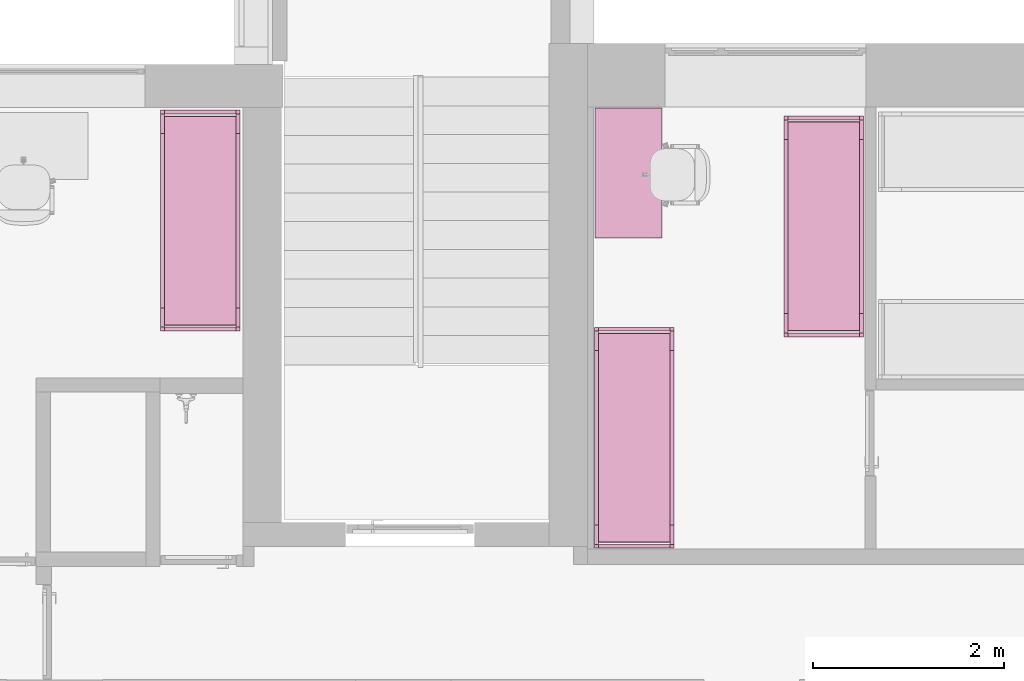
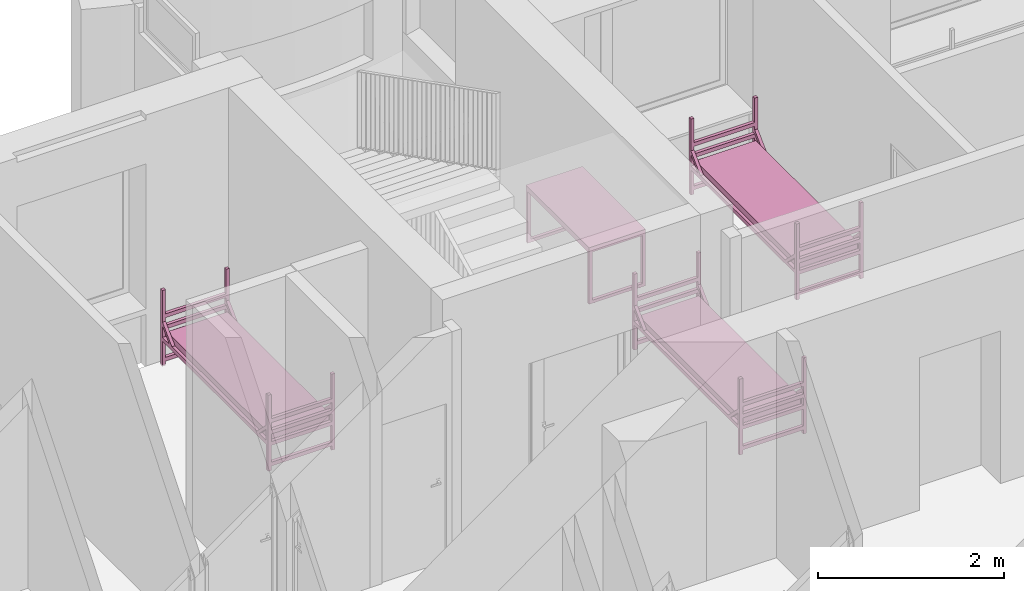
# One storey, part 29 of 48: 4 furnishings.
"""IFC2X3 building model written with IfcOpenShell, lengths in millimetres."""

from ifc_helpers import new_model, entity, si_unit, converted_unit, derived_unit, direction, frame, frame_2d, origin, place, context, subcontext, project, spatial, polyline, circle_curve, parameter, trimmed, segment, composite_curve, rectangle, outline, extrude, faceted_brep, source, transform, mapped, material, material_list, type_object, type_shapes, element, save


model = new_model("IFC2X3")

# Units and contexts
model_context = context("Model", 3, precision=0.01, world=origin(), true_north=direction((6.12303176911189e-17, 1.0)))
body_context = subcontext(model_context, "Body", "Model", "MODEL_VIEW")
ifc_project = project(units=[si_unit("LENGTHUNIT", "METRE", prefix="MILLI"), si_unit("AREAUNIT", "SQUARE_METRE"), si_unit("VOLUMEUNIT", "CUBIC_METRE"), converted_unit("PLANEANGLEUNIT", "DEGREE", entity("IfcRatioMeasure", 0.0174532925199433), si_unit("PLANEANGLEUNIT", "RADIAN"), dimensions=[0, 0, 0, 0, 0, 0, 0]), si_unit("MASSUNIT", "GRAM", prefix="KILO"), derived_unit("MASSDENSITYUNIT", [(si_unit("MASSUNIT", "GRAM", prefix="KILO"), 1), (si_unit("LENGTHUNIT", "METRE"), -3)]), si_unit("TIMEUNIT", "SECOND"), si_unit("FREQUENCYUNIT", "HERTZ"), si_unit("THERMODYNAMICTEMPERATUREUNIT", "DEGREE_CELSIUS"), derived_unit("THERMALTRANSMITTANCEUNIT", [(si_unit("MASSUNIT", "GRAM", prefix="KILO"), 1), (si_unit("THERMODYNAMICTEMPERATUREUNIT", "KELVIN"), -1), (si_unit("TIMEUNIT", "SECOND"), -3)]), derived_unit("VOLUMETRICFLOWRATEUNIT", [(si_unit("LENGTHUNIT", "METRE"), 3), (si_unit("TIMEUNIT", "SECOND"), -1)]), si_unit("ELECTRICCURRENTUNIT", "AMPERE"), si_unit("ELECTRICVOLTAGEUNIT", "VOLT"), si_unit("POWERUNIT", "WATT"), si_unit("FORCEUNIT", "NEWTON", prefix="KILO"), si_unit("ILLUMINANCEUNIT", "LUX"), si_unit("LUMINOUSFLUXUNIT", "LUMEN"), si_unit("LUMINOUSINTENSITYUNIT", "CANDELA"), derived_unit("USERDEFINED", [(si_unit("MASSUNIT", "GRAM", prefix="KILO"), -1), (si_unit("LENGTHUNIT", "METRE"), -2), (si_unit("TIMEUNIT", "SECOND"), 3), (si_unit("LUMINOUSFLUXUNIT", "LUMEN"), 1)]), derived_unit("LINEARVELOCITYUNIT", [(si_unit("LENGTHUNIT", "METRE"), 1), (si_unit("TIMEUNIT", "SECOND"), -1)]), si_unit("PRESSUREUNIT", "PASCAL"), derived_unit("USERDEFINED", [(si_unit("LENGTHUNIT", "METRE"), -2), (si_unit("MASSUNIT", "GRAM", prefix="KILO"), 1), (si_unit("TIMEUNIT", "SECOND"), -2)]), derived_unit("LINEARFORCEUNIT", [(si_unit("MASSUNIT", "GRAM", prefix="KILO"), 1), (si_unit("LENGTHUNIT", "METRE"), 1), (si_unit("TIMEUNIT", "SECOND"), -2), (si_unit("LENGTHUNIT", "METRE"), -1)]), derived_unit("PLANARFORCEUNIT", [(si_unit("MASSUNIT", "GRAM", prefix="KILO"), 1), (si_unit("LENGTHUNIT", "METRE"), 1), (si_unit("TIMEUNIT", "SECOND"), -2), (si_unit("LENGTHUNIT", "METRE"), -2)])], contexts=[model_context])

# Site, building, storey, space
site_placement = place(None, origin())
site = spatial("IfcSite", under=ifc_project, at=site_placement, Name="Default", CompositionType="ELEMENT")
building_placement = place(site_placement, origin())
building = spatial("IfcBuilding", under=site, at=building_placement, Name="SMA ARH", CompositionType="ELEMENT")
storey_placement = place(building_placement, frame((0.0, 0.0, 6600.0)))
storey = spatial("IfcBuildingStorey", under=building, at=storey_placement, Name="3 Korrus", CompositionType="ELEMENT", Elevation=6599.99999999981)
space_1_placement = place(storey_placement, origin())
space_1 = spatial("IfcSpace", under=storey, at=space_1_placement, Name="3-22", CompositionType="ELEMENT", InteriorOrExteriorSpace="INTERNAL")

# Furnishings
ifc_material_1 = material(Name="Madrats")
furniture_type_1 = type_object("IfcFurnitureType", Name="Kasarmu voodi ühekordne 2308x830:Kasarmu voodi ühekordne 2308x830", material=ifc_material_1)
shared_shape_1 = source(origin(), body_context, "Body", "SweptSolid", [
    extrude(rectangle(XDim=39.9999999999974, YDim=750.000000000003, at=frame_2d((-1.35003119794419e-13, -2.8421709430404e-14), x_axis=(1.0, 0.0))), frame((1.68638457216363, -1226.7969571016, 55.0), z_axis=(0.0, 0.0, 1.0), x_axis=(0.0, -1.0, 0.0)), (0.0, 0.0, 1.0), 49.9999999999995),
    extrude(rectangle(XDim=39.9999999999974, YDim=750.000000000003, at=frame_2d((-1.35003119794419e-13, -2.8421709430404e-14), x_axis=(1.0, 0.0))), frame((1.68638457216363, -1226.7969571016, 325.0), z_axis=(0.0, 0.0, 1.0), x_axis=(0.0, -1.0, 0.0)), (0.0, 0.0, 1.0), 49.9999999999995),
    extrude(rectangle(XDim=39.9999999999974, YDim=750.000000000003, at=frame_2d((-1.35003119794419e-13, -2.8421709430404e-14), x_axis=(1.0, 0.0))), frame((1.68638457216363, -1226.7969571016, 475.0), z_axis=(0.0, 0.0, 1.0), x_axis=(0.0, -1.0, 0.0)), (0.0, 0.0, 1.0), 49.9999999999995),
    extrude(rectangle(XDim=39.9999999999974, YDim=750.000000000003, at=frame_2d((-1.35003119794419e-13, -2.8421709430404e-14), x_axis=(1.0, 0.0))), frame((1.68638457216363, -1226.7969571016, 625.0), z_axis=(0.0, 0.0, 1.0), x_axis=(0.0, -1.0, 0.0)), (0.0, 0.0, 1.0), 50.0000000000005),
    extrude(rectangle(XDim=39.9999999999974, YDim=750.000000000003, at=frame_2d((1.35003119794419e-13, -2.8421709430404e-14), x_axis=(1.0, 0.0))), frame((1.68638457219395, 1041.2030428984, 55.0), z_axis=(0.0, 0.0, 1.0), x_axis=(0.0, -1.0, 0.0)), (0.0, 0.0, 1.0), 50.0000000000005),
    extrude(rectangle(XDim=39.9999999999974, YDim=750.000000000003, at=frame_2d((1.35003119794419e-13, -2.8421709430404e-14), x_axis=(1.0, 0.0))), frame((1.68638457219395, 1041.2030428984, 325.0), z_axis=(0.0, 0.0, 1.0), x_axis=(0.0, -1.0, 0.0)), (0.0, 0.0, 1.0), 50.0000000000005),
    extrude(rectangle(XDim=39.9999999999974, YDim=750.000000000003, at=frame_2d((1.35003119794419e-13, -2.8421709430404e-14), x_axis=(1.0, 0.0))), frame((1.68638457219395, 1041.2030428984, 475.0), z_axis=(0.0, 0.0, 1.0), x_axis=(0.0, -1.0, 0.0)), (0.0, 0.0, 1.0), 50.0000000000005),
    extrude(rectangle(XDim=39.9999999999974, YDim=750.000000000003, at=frame_2d((1.35003119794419e-13, -2.8421709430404e-14), x_axis=(1.0, 0.0))), frame((1.68638457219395, 1041.2030428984, 625.0), z_axis=(0.0, 0.0, 1.0), x_axis=(0.0, -1.0, 0.0)), (0.0, 0.0, 1.0), 49.9999999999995),
    extrude(outline(composite_curve([segment(trimmed(circle_curve(frame_2d((1085.0, -40.0), x_axis=(1.0, 0.0)), 10.0), [parameter(270.0)], [parameter(0.0)], True, "PARAMETER"), True, "CONTINUOUS"), segment(polyline([(1095.0, -40.0), (1095.0, 40.0)]), True, "CONTINUOUS"), segment(trimmed(circle_curve(frame_2d((1085.0, 40.0), x_axis=(1.0, 0.0)), 10.0), [parameter(0.0)], [parameter(90.0000000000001)], True, "PARAMETER"), True, "CONTINUOUS"), segment(polyline([(1085.0, 50.0), (-1085.0, 50.0)]), True, "CONTINUOUS"), segment(trimmed(circle_curve(frame_2d((-1085.0, 40.0), x_axis=(1.0, 0.0)), 10.0), [parameter(90.0000000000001)], [parameter(180.0)], True, "PARAMETER"), True, "CONTINUOUS"), segment(polyline([(-1095.0, 40.0), (-1095.0, -40.0)]), True, "CONTINUOUS"), segment(trimmed(circle_curve(frame_2d((-1085.0, -40.0), x_axis=(1.0, 0.0)), 10.0), [parameter(180.0)], [parameter(270.0)], True, "PARAMETER"), True, "CONTINUOUS"), segment(polyline([(-1085.0, -50.0), (1085.0, -50.0)]), True, "CONTINUOUS")], self_intersect=False)), frame((-373.313615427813, -92.7969571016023, 405.0), z_axis=(1.0, 0.0, 0.0), x_axis=(0.0, -1.0, 0.0)), (0.0, 0.0, 1.0), 750.000000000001),
    extrude(outline(polyline([(-1114.0, -100.0), (1114.0, -100.0), (1114.0, -50.0), (961.59199141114, -50.0), (1114.0, 100.0), (1114.0, 150.0), (910.789321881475, -50.0), (-910.789321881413, -50.0), (-1114.0, 150.0), (-1114.0, 100.0), (-961.591991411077, -50.0), (-1114.0, -50.0), (-1114.0, -100.0)])), frame((-413.313615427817, -92.7969571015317, 430.0), z_axis=(1.0, 0.0, 0.0), x_axis=(0.0, 1.0, 0.0)), (0.0, 0.0, 1.0), 39.9999999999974),
    extrude(outline(polyline([(-1114.0, -100.0), (1114.0, -100.0), (1114.0, -50.0), (961.591991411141, -50.0), (1114.0, 100.0), (1114.0, 150.0), (910.789321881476, -50.0), (-910.789321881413, -50.0), (-1114.0, 150.0), (-1114.0, 100.0), (-961.591991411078, -50.0), (-1114.0, -50.0), (-1114.0, -100.0)])), frame((376.686384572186, -92.796957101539, 430.0), z_axis=(1.0, 0.0, 0.0), x_axis=(0.0, 1.0, 0.0)), (0.0, 0.0, 1.0), 39.9999999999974),
    extrude(rectangle(XDim=39.9999999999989, YDim=39.9999999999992, at=frame_2d((-6.75015598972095e-14, 0.0), x_axis=(1.0, 0.0))), frame((396.686384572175, -1226.79695710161, 0.0), z_axis=(0.0, 0.0, 1.0), x_axis=(0.0, 1.0, 0.0)), (0.0, 0.0, 1.0), 995.0),
    extrude(rectangle(XDim=39.9999999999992, YDim=39.9999999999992, at=frame_2d((-1.35003119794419e-13, 0.0), x_axis=(1.0, 0.0))), frame((396.686384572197, 1041.20304289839, 0.0), z_axis=(0.0, 0.0, 1.0), x_axis=(0.0, 1.0, 0.0)), (0.0, 0.0, 1.0), 995.0),
    extrude(rectangle(XDim=40.0000000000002, YDim=39.9999999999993, at=frame_2d((-1.35003119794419e-13, 0.0), x_axis=(1.0, 0.0))), frame((-393.313615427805, 1041.2030428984, 0.0), z_axis=(0.0, 0.0, 1.0), x_axis=(0.0, 1.0, 0.0)), (0.0, 0.0, 1.0), 995.0),
    extrude(rectangle(XDim=39.9999999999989, YDim=39.9999999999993, at=frame_2d((-6.75015598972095e-14, 0.0), x_axis=(1.0, 0.0))), frame((-393.313615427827, -1226.7969571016, 0.0), z_axis=(0.0, 0.0, 1.0), x_axis=(0.0, 1.0, 0.0)), (0.0, 0.0, 1.0), 995.0),
])
type_shapes(furniture_type_1, [shared_shape_1])
for number, where, z_axis, x_axis, name in (
    (1, (14471.6863845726, 11160.0, 0.0), (0.0, 0.0, 1.0), (-1.0, 0.0, 0.0), "Kasarmu voodi ühekordne 2308x830:Kasarmu voodi ühekordne 2308x830"),
    (2, (12491.6863845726, 8950.20304289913, 0.0), (0.0, 0.0, 1.0), (-1.0, 0.0, 0.0), "Kasarmu voodi ühekordne 2308x830:Kasarmu voodi ühekordne 2308x830"),
):
    element("IfcFurnishingElement", number, at=place(space_1_placement, frame(where, z_axis=z_axis, x_axis=x_axis)), inside=space_1, type_object=furniture_type_1, material=ifc_material_1, Name=name, ObjectType="Kasarmu voodi ühekordne 2308x830:Kasarmu voodi ühekordne 2308x830", context=body_context, shape_type="MappedRepresentation", body=[
        mapped(shared_shape_1, transform((0.0, 0.0, 0.0), scale=1.0)),
    ])

# Space
space_2_placement = place(storey_placement, origin())
space_2 = spatial("IfcSpace", under=storey, at=space_2_placement, Name="3-20/2", CompositionType="ELEMENT", InteriorOrExteriorSpace="INTERNAL")

# Furnishings
furnishing_1_placement = place(space_2_placement, frame((7954.50000000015, 11220.0, 0.0), z_axis=(0.0, 0.0, 1.0), x_axis=(-1.0, 0.0, 0.0)))
element("IfcFurnishingElement", 3, at=furnishing_1_placement, inside=space_2, type_object=furniture_type_1, material=ifc_material_1, Name="Kasarmu voodi ühekordne 2308x830:Kasarmu voodi ühekordne 2308x830", ObjectType="Kasarmu voodi ühekordne 2308x830:Kasarmu voodi ühekordne 2308x830", context=body_context, shape_type="MappedRepresentation", body=[
    mapped(shared_shape_1, transform((0.0, 0.0, 0.0), scale=1.0)),
])
ifc_material_2 = material(Name="<Unnamed>")
ifc_material_list = material_list([ifc_material_2, ifc_material_2])
furniture_type_2 = type_object("IfcFurnitureType", Name="kirjutuslaud 1360x700mm:kirjutuslaud 1360x700mm", material=ifc_material_list)
shared_shape_2 = source(origin(), body_context, "Body", "Brep", [
    faceted_brep([(680.0, -350.0, 720.0), (680.0, 350.0, 720.0), (680.0, 350.0, 750.0), (680.0, -350.0, 750.0), (-680.0, -350.0, 720.0), (-680.0, -350.0, 750.0), (-680.0, 350.0, 750.0), (-680.0, 350.0, 720.0)], [[[0, 1, 2, 3]], [[4, 5, 6, 7]], [[1, 0, 4, 7]], [[2, 1, 7, 6]], [[3, 2, 6, 5]], [[0, 3, 5, 4]]]),
    faceted_brep([(-640.0, -310.0, 680.0), (-640.0, 310.0, 680.0), (-640.0, 310.0, 720.0), (-640.0, -310.0, 720.0), (-680.0, -350.0, 720.0), (-680.0, 350.0, 720.0), (-680.0, 350.0, 10.0), (-680.0, -350.0, 10.0), (-680.0, 310.0, 680.0), (-680.0, -310.0, 680.0), (-680.0, -310.0, 50.0), (-680.0, 310.0, 50.0), (-640.0, -350.0, 10.0), (-640.0, -350.0, 680.0), (640.0, -350.0, 680.0), (640.0, -350.0, 10.0), (680.0, -350.0, 10.0), (680.0, -350.0, 720.0), (-640.0, 350.0, 10.0), (680.0, 350.0, 720.0), (680.0, 350.0, 10.0), (640.0, 350.0, 10.0), (640.0, 350.0, 680.0), (-640.0, 350.0, 680.0), (640.0, 310.0, 720.0), (640.0, -310.0, 720.0), (-640.0, 310.0, 50.0), (-640.0, -310.0, 50.0), (640.0, -310.0, 680.0), (640.0, 310.0, 680.0), (680.0, 310.0, 680.0), (680.0, 310.0, 50.0), (680.0, -310.0, 50.0), (680.0, -310.0, 680.0), (640.0, -310.0, 50.0), (640.0, 310.0, 50.0)], [[[0, 1, 2, 3]], [[4, 5, 6, 7], [8, 9, 10, 11]], [[4, 7, 12, 13, 14, 15, 16, 17]], [[18, 12, 7, 6]], [[6, 5, 19, 20, 21, 22, 23, 18]], [[19, 5, 4, 17], [2, 24, 25, 3]], [[26, 1, 8, 11]], [[27, 26, 11, 10]], [[0, 27, 10, 9]], [[1, 0, 9, 8]], [[14, 13, 0, 28]], [[24, 2, 1, 29]], [[3, 25, 28, 0]], [[17, 16, 20, 19], [30, 31, 32, 33]], [[21, 15, 14, 28, 34, 35, 29, 22]], [[20, 16, 15, 21]], [[31, 30, 29, 35]], [[32, 31, 35, 34]], [[33, 32, 34, 28]], [[30, 33, 28, 29]], [[29, 28, 25, 24]], [[29, 1, 23, 22]], [[12, 18, 23, 1, 26, 27, 0, 13]]]),
    faceted_brep([(-663.729456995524, -270.466136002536, 0.0), (-659.847171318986, -269.955023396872, 0.0), (-655.964885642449, -270.466136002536, 0.0), (-652.347171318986, -271.964642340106, 0.0), (-649.240569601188, -274.348421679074, 0.0), (-646.85679026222, -277.455023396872, 0.0), (-645.35828392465, -281.072737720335, 0.0), (-644.847171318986, -284.955023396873, 0.0), (-645.35828392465, -288.83730907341, 0.0), (-646.85679026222, -292.455023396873, 0.0), (-649.240569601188, -295.561625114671, 0.0), (-652.347171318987, -297.945404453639, 0.0), (-655.964885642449, -299.443910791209, 0.0), (-659.847171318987, -299.955023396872, 0.0), (-663.729456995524, -299.443910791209, 0.0), (-667.347171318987, -297.945404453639, 0.0), (-670.453773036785, -295.561625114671, 0.0), (-672.837552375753, -292.455023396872, 0.0), (-674.336058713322, -288.83730907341, 0.0), (-674.847171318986, -284.955023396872, 0.0), (-674.336058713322, -281.072737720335, 0.0), (-672.837552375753, -277.455023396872, 0.0), (-670.453773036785, -274.348421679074, 0.0), (-667.347171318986, -271.964642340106, 0.0), (-655.964885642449, -299.443910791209, 10.0), (-652.347171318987, -297.945404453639, 10.0), (-649.240569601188, -295.561625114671, 10.0), (-646.85679026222, -292.455023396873, 10.0), (-645.35828392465, -288.83730907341, 10.0), (-644.847171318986, -284.955023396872, 10.0), (-645.35828392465, -281.072737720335, 10.0), (-646.85679026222, -277.455023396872, 10.0), (-649.240569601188, -274.348421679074, 10.0), (-652.347171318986, -271.964642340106, 10.0), (-655.964885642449, -270.466136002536, 10.0), (-659.847171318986, -269.955023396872, 10.0), (-663.729456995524, -270.466136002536, 10.0), (-667.347171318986, -271.964642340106, 10.0), (-670.453773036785, -274.348421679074, 10.0), (-672.837552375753, -277.455023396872, 10.0), (-674.336058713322, -281.072737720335, 10.0), (-674.847171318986, -284.955023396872, 10.0), (-674.336058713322, -288.83730907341, 10.0), (-672.837552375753, -292.455023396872, 10.0), (-670.453773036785, -295.561625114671, 10.0), (-667.347171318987, -297.945404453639, 10.0), (-663.729456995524, -299.443910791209, 10.0), (-659.847171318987, -299.955023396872, 10.0)], [[[0, 1, 2, 3, 4, 5, 6, 7, 8, 9, 10, 11, 12, 13, 14, 15, 16, 17, 18, 19, 20, 21, 22, 23]], [[24, 25, 26, 27, 28, 29, 30, 31, 32, 33, 34, 35, 36, 37, 38, 39, 40, 41, 42, 43, 44, 45, 46, 47]], [[18, 42, 41, 19]], [[17, 43, 42, 18]], [[45, 44, 16, 15]], [[17, 16, 44, 43]], [[46, 45, 15, 14]], [[47, 46, 14, 13]], [[12, 24, 47, 13]], [[11, 25, 24, 12]], [[27, 26, 10, 9]], [[11, 10, 26, 25]], [[28, 27, 9, 8]], [[29, 28, 8, 7]], [[6, 30, 29, 7]], [[5, 31, 30, 6]], [[33, 32, 4, 3]], [[5, 4, 32, 31]], [[34, 33, 3, 2]], [[35, 34, 2, 1]], [[0, 36, 35, 1]], [[23, 37, 36, 0]], [[39, 38, 22, 21]], [[23, 22, 38, 37]], [[40, 39, 21, 20]], [[41, 40, 20, 19]]]),
    faceted_brep([(-655.964885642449, 270.466136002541, 10.0), (-652.347171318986, 271.964642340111, 10.0), (-649.240569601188, 274.348421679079, 10.0), (-646.85679026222, 277.455023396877, 10.0), (-645.35828392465, 281.07273772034, 10.0), (-644.847171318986, 284.955023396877, 10.0), (-645.35828392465, 288.837309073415, 10.0), (-646.85679026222, 292.455023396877, 10.0), (-649.240569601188, 295.561625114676, 10.0), (-652.347171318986, 297.945404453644, 10.0), (-655.964885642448, 299.443910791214, 10.0), (-659.847171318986, 299.955023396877, 10.0), (-663.729456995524, 299.443910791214, 10.0), (-667.347171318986, 297.945404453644, 10.0), (-670.453773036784, 295.561625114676, 10.0), (-672.837552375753, 292.455023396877, 10.0), (-674.336058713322, 288.837309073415, 10.0), (-674.847171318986, 284.955023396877, 10.0), (-674.336058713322, 281.07273772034, 10.0), (-672.837552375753, 277.455023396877, 10.0), (-670.453773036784, 274.348421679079, 10.0), (-667.347171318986, 271.964642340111, 10.0), (-663.729456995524, 270.466136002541, 10.0), (-659.847171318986, 269.955023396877, 10.0), (-655.964885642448, 299.443910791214, 0.0), (-652.347171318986, 297.945404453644, 0.0), (-649.240569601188, 295.561625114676, 0.0), (-646.85679026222, 292.455023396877, 0.0), (-645.35828392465, 288.837309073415, 0.0), (-644.847171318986, 284.955023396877, 0.0), (-645.35828392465, 281.07273772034, 0.0), (-646.85679026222, 277.455023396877, 0.0), (-649.240569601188, 274.348421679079, 0.0), (-652.347171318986, 271.964642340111, 0.0), (-655.964885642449, 270.466136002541, 0.0), (-659.847171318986, 269.955023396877, 0.0), (-663.729456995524, 270.466136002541, 0.0), (-667.347171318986, 271.964642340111, 0.0), (-670.453773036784, 274.348421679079, 0.0), (-672.837552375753, 277.455023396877, 0.0), (-674.336058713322, 281.07273772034, 0.0), (-674.847171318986, 284.955023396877, 0.0), (-674.336058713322, 288.837309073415, 0.0), (-672.837552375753, 292.455023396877, 0.0), (-670.453773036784, 295.561625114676, 0.0), (-667.347171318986, 297.945404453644, 0.0), (-663.729456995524, 299.443910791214, 0.0), (-659.847171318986, 299.955023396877, 0.0)], [[[0, 1, 2, 3, 4, 5, 6, 7, 8, 9, 10, 11, 12, 13, 14, 15, 16, 17, 18, 19, 20, 21, 22, 23]], [[24, 25, 26, 27, 28, 29, 30, 31, 32, 33, 34, 35, 36, 37, 38, 39, 40, 41, 42, 43, 44, 45, 46, 47]], [[40, 18, 17, 41]], [[39, 19, 18, 40]], [[21, 20, 38, 37]], [[39, 38, 20, 19]], [[22, 21, 37, 36]], [[23, 22, 36, 35]], [[34, 0, 23, 35]], [[33, 1, 0, 34]], [[3, 2, 32, 31]], [[33, 32, 2, 1]], [[4, 3, 31, 30]], [[5, 4, 30, 29]], [[28, 6, 5, 29]], [[27, 7, 6, 28]], [[9, 8, 26, 25]], [[27, 26, 8, 7]], [[10, 9, 25, 24]], [[11, 10, 24, 47]], [[46, 12, 11, 47]], [[45, 13, 12, 46]], [[15, 14, 44, 43]], [[45, 44, 14, 13]], [[16, 15, 43, 42]], [[17, 16, 42, 41]]]),
    faceted_brep([(656.270543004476, -270.466136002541, 0.0), (660.152828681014, -269.955023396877, 0.0), (664.035114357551, -270.466136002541, 0.0), (667.652828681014, -271.96464234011, 0.0), (670.759430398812, -274.348421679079, 0.0), (673.14320973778, -277.455023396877, 0.0), (674.64171607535, -281.072737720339, 0.0), (675.152828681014, -284.955023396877, 0.0), (674.64171607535, -288.837309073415, 0.0), (673.14320973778, -292.455023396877, 0.0), (670.759430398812, -295.561625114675, 0.0), (667.652828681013, -297.945404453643, 0.0), (664.035114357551, -299.443910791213, 0.0), (660.152828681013, -299.955023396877, 0.0), (656.270543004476, -299.443910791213, 0.0), (652.652828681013, -297.945404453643, 0.0), (649.546226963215, -295.561625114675, 0.0), (647.162447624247, -292.455023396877, 0.0), (645.663941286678, -288.837309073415, 0.0), (645.152828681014, -284.955023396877, 0.0), (645.663941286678, -281.072737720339, 0.0), (647.162447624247, -277.455023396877, 0.0), (649.546226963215, -274.348421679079, 0.0), (652.652828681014, -271.96464234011, 0.0), (664.035114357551, -299.443910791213, 10.0), (667.652828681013, -297.945404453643, 10.0), (670.759430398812, -295.561625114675, 10.0), (673.14320973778, -292.455023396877, 10.0), (674.64171607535, -288.837309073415, 10.0), (675.152828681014, -284.955023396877, 10.0), (674.64171607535, -281.072737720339, 10.0), (673.14320973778, -277.455023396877, 10.0), (670.759430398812, -274.348421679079, 10.0), (667.652828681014, -271.96464234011, 10.0), (664.035114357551, -270.466136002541, 10.0), (660.152828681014, -269.955023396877, 10.0), (656.270543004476, -270.466136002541, 10.0), (652.652828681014, -271.96464234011, 10.0), (649.546226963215, -274.348421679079, 10.0), (647.162447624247, -277.455023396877, 10.0), (645.663941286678, -281.072737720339, 10.0), (645.152828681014, -284.955023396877, 10.0), (645.663941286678, -288.837309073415, 10.0), (647.162447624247, -292.455023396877, 10.0), (649.546226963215, -295.561625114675, 10.0), (652.652828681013, -297.945404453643, 10.0), (656.270543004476, -299.443910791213, 10.0), (660.152828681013, -299.955023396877, 10.0)], [[[0, 1, 2, 3, 4, 5, 6, 7, 8, 9, 10, 11, 12, 13, 14, 15, 16, 17, 18, 19, 20, 21, 22, 23]], [[24, 25, 26, 27, 28, 29, 30, 31, 32, 33, 34, 35, 36, 37, 38, 39, 40, 41, 42, 43, 44, 45, 46, 47]], [[18, 42, 41, 19]], [[17, 43, 42, 18]], [[45, 44, 16, 15]], [[17, 16, 44, 43]], [[46, 45, 15, 14]], [[47, 46, 14, 13]], [[12, 24, 47, 13]], [[11, 25, 24, 12]], [[27, 26, 10, 9]], [[11, 10, 26, 25]], [[28, 27, 9, 8]], [[29, 28, 8, 7]], [[6, 30, 29, 7]], [[5, 31, 30, 6]], [[33, 32, 4, 3]], [[5, 4, 32, 31]], [[34, 33, 3, 2]], [[35, 34, 2, 1]], [[0, 36, 35, 1]], [[23, 37, 36, 0]], [[39, 38, 22, 21]], [[23, 22, 38, 37]], [[40, 39, 21, 20]], [[41, 40, 20, 19]]]),
    faceted_brep([(664.035114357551, 270.466136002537, 10.0), (667.652828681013, 271.964642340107, 10.0), (670.759430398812, 274.348421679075, 10.0), (673.14320973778, 277.455023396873, 10.0), (674.64171607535, 281.072737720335, 10.0), (675.152828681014, 284.955023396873, 10.0), (674.64171607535, 288.837309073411, 10.0), (673.14320973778, 292.455023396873, 10.0), (670.759430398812, 295.561625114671, 10.0), (667.652828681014, 297.94540445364, 10.0), (664.035114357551, 299.443910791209, 10.0), (660.152828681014, 299.955023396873, 10.0), (656.270543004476, 299.443910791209, 10.0), (652.652828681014, 297.94540445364, 10.0), (649.546226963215, 295.561625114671, 10.0), (647.162447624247, 292.455023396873, 10.0), (645.663941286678, 288.837309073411, 10.0), (645.152828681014, 284.955023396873, 10.0), (645.663941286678, 281.072737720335, 10.0), (647.162447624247, 277.455023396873, 10.0), (649.546226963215, 274.348421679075, 10.0), (652.652828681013, 271.964642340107, 10.0), (656.270543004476, 270.466136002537, 10.0), (660.152828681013, 269.955023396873, 10.0), (664.035114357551, 299.443910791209, 0.0), (667.652828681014, 297.94540445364, 0.0), (670.759430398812, 295.561625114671, 0.0), (673.14320973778, 292.455023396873, 0.0), (674.64171607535, 288.837309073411, 0.0), (675.152828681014, 284.955023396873, 0.0), (674.64171607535, 281.072737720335, 0.0), (673.14320973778, 277.455023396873, 0.0), (670.759430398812, 274.348421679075, 0.0), (667.652828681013, 271.964642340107, 0.0), (664.035114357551, 270.466136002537, 0.0), (660.152828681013, 269.955023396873, 0.0), (656.270543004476, 270.466136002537, 0.0), (652.652828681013, 271.964642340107, 0.0), (649.546226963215, 274.348421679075, 0.0), (647.162447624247, 277.455023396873, 0.0), (645.663941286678, 281.072737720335, 0.0), (645.152828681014, 284.955023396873, 0.0), (645.663941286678, 288.837309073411, 0.0), (647.162447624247, 292.455023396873, 0.0), (649.546226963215, 295.561625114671, 0.0), (652.652828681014, 297.94540445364, 0.0), (656.270543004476, 299.443910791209, 0.0), (660.152828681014, 299.955023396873, 0.0)], [[[0, 1, 2, 3, 4, 5, 6, 7, 8, 9, 10, 11, 12, 13, 14, 15, 16, 17, 18, 19, 20, 21, 22, 23]], [[24, 25, 26, 27, 28, 29, 30, 31, 32, 33, 34, 35, 36, 37, 38, 39, 40, 41, 42, 43, 44, 45, 46, 47]], [[40, 18, 17, 41]], [[39, 19, 18, 40]], [[21, 20, 38, 37]], [[39, 38, 20, 19]], [[22, 21, 37, 36]], [[23, 22, 36, 35]], [[34, 0, 23, 35]], [[33, 1, 0, 34]], [[3, 2, 32, 31]], [[33, 32, 2, 1]], [[4, 3, 31, 30]], [[5, 4, 30, 29]], [[28, 6, 5, 29]], [[27, 7, 6, 28]], [[9, 8, 26, 25]], [[27, 26, 8, 7]], [[10, 9, 25, 24]], [[11, 10, 24, 47]], [[46, 12, 11, 47]], [[45, 13, 12, 46]], [[15, 14, 44, 43]], [[45, 44, 14, 13]], [[16, 15, 43, 42]], [[17, 16, 42, 41]]]),
])
type_shapes(furniture_type_2, [shared_shape_2])
furnishing_2_placement = place(space_1_placement, frame((12430.0, 11810.0, 0.0), z_axis=(0.0, 0.0, 1.0), x_axis=(0.0, 1.0, 0.0)))
element("IfcFurnishingElement", 4, at=furnishing_2_placement, inside=space_1, type_object=furniture_type_2, Name="kirjutuslaud 1360x700mm:kirjutuslaud 1360x700mm", ObjectType="kirjutuslaud 1360x700mm:kirjutuslaud 1360x700mm", context=body_context, shape_type="MappedRepresentation", body=[
    mapped(shared_shape_2, transform((0.0, 0.0, 0.0), scale=1.0)),
])

save(model, "model.ifc")
